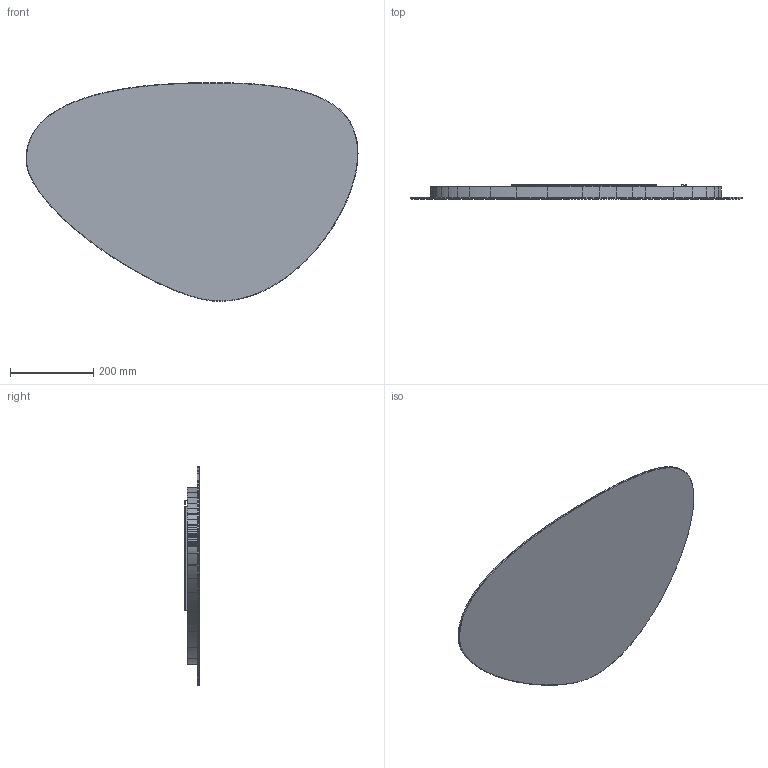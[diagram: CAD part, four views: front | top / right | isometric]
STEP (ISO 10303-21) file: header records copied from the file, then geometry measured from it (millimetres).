
FILE_DESCRIPTION(/* description */ ('Unknown'),/* implementation_level */ '2;1');
FILE_NAME(/* name */ 'Nata',/* time_stamp */ '2026-04-08T14:14:42+02:00',/* author */ ('Mariusz Kirko'),/* organization */ ('Kraft'),/* preprocessor_version */ 'ST-DEVELOPER v19.4',/* originating_system */ 'Solid Edge',/* authorisation */ 'Unknown');
FILE_SCHEMA (('AUTOMOTIVE_DESIGN {1 0 10303 214 3 1 1}'));
Length unit declared in the file: millimetre
Products named in the file (5): Z這瞠nie plus zawieszki; Lustro; Ramka; 350x30; 250x30
Assembly tree (4 placements, depth 2):
  Z這瞠nie plus zawieszki
    Lustro
    Ramka
    350x30
    250x30
Bounding box: 797.77 x 34 x 525.65 mm (x, y, z)
Volume: 1407817.3 mm3; surface area: 851086.9 mm2
Topology: 4 solids, 4 shells, 412 faces, 1140 edges, 736 vertices
Faces by surface type: cylinder 263, plane 77, torus 72
Entity records: 13673 total; most frequent: DIRECTION 2644, CARTESIAN_POINT 2293, ORIENTED_EDGE 2280, EDGE_CURVE 1140, AXIS2_PLACEMENT_3D 1087, VERTEX_POINT 736, CIRCLE 670, LINE 470
